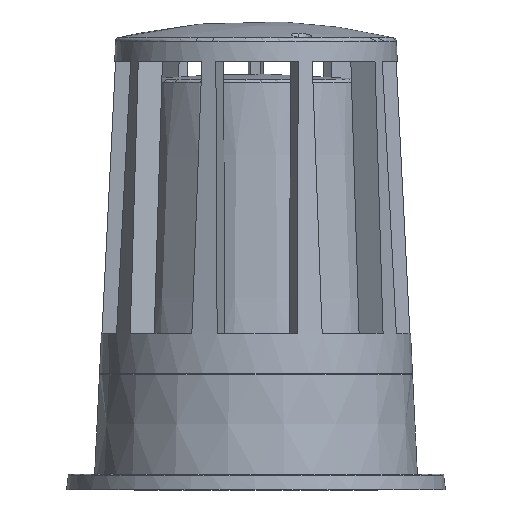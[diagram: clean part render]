
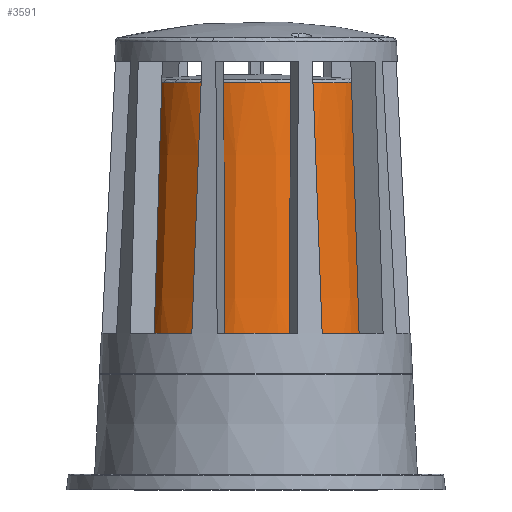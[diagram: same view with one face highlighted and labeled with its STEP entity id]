
A CAD part, front view. The second image highlights one B-rep face of the part: STEP entity #3591.
In plain terms, the highlighted conical face has half-angle 2.813 degrees and reference radius 56.857 mm.
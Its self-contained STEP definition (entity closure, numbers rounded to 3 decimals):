
#86=B_SPLINE_CURVE_WITH_KNOTS('',3,(#5673,#5674,#5675,#5676,#5677,#5678,
#5679,#5680,#5681,#5682),.UNSPECIFIED.,.F.,.F.,(4,1,1,1,1,1,1,4),(0.,0.143,
0.286,0.429,0.571,0.714,
0.857,1.),.UNSPECIFIED.);
#184=CONICAL_SURFACE('',#3874,56.857,0.049);
#264=CIRCLE('',#3875,63.217);
#529=FACE_OUTER_BOUND('',#755,.T.);
#755=EDGE_LOOP('',(#2699,#2700,#2701,#2702));
#1065=LINE('',#5671,#1339);
#1066=LINE('',#5683,#1340);
#1339=VECTOR('',#4582,304.8);
#1340=VECTOR('',#4583,304.8);
#1589=VERTEX_POINT('',#5667);
#1590=VERTEX_POINT('',#5668);
#1591=VERTEX_POINT('',#5670);
#1592=VERTEX_POINT('',#5672);
#1992=EDGE_CURVE('',#1589,#1590,#264,.T.);
#1993=EDGE_CURVE('',#1591,#1589,#1065,.T.);
#1994=EDGE_CURVE('',#1592,#1591,#86,.T.);
#1995=EDGE_CURVE('',#1590,#1592,#1066,.T.);
#2699=ORIENTED_EDGE('',*,*,#1992,.F.);
#2700=ORIENTED_EDGE('',*,*,#1993,.F.);
#2701=ORIENTED_EDGE('',*,*,#1994,.F.);
#2702=ORIENTED_EDGE('',*,*,#1995,.F.);
#3591=ADVANCED_FACE('',(#529),#184,.T.);
#3874=AXIS2_PLACEMENT_3D('',#5666,#4578,#4579);
#3875=AXIS2_PLACEMENT_3D('',#5669,#4580,#4581);
#4578=DIRECTION('center_axis',(0.,0.,
-1.));
#4579=DIRECTION('ref_axis',(0.,-1.,0.));
#4580=DIRECTION('center_axis',(0.,0.,-1.));
#4581=DIRECTION('ref_axis',(-0.809,0.588,0.));
#4582=DIRECTION('',(0.049,0.,-0.999));
#4583=DIRECTION('',(0.049,0.,0.999));
#5666=CARTESIAN_POINT('Origin',(0.,0.,189.769));
#5667=CARTESIAN_POINT('',(63.217,0.,60.314));
#5668=CARTESIAN_POINT('',(-63.217,0.,60.314));
#5669=CARTESIAN_POINT('Origin',(0.,0.,
60.314));
#5670=CARTESIAN_POINT('',(56.15,0.,204.153));
#5671=CARTESIAN_POINT('',(56.15,0.,204.153));
#5672=CARTESIAN_POINT('',(-56.15,0.,204.153));
#5673=CARTESIAN_POINT('Ctrl Pts',(-56.15,0.,
204.153));
#5674=CARTESIAN_POINT('Ctrl Pts',(-56.273,-8.457,204.153));
#5675=CARTESIAN_POINT('Ctrl Pts',(-52.26,-25.167,204.153));
#5676=CARTESIAN_POINT('Ctrl Pts',(-36.22,-45.406,204.153));
#5677=CARTESIAN_POINT('Ctrl Pts',(-12.916,-56.61,204.153));
#5678=CARTESIAN_POINT('Ctrl Pts',(12.916,-56.61,204.153));
#5679=CARTESIAN_POINT('Ctrl Pts',(36.22,-45.406,204.153));
#5680=CARTESIAN_POINT('Ctrl Pts',(52.26,-25.167,204.153));
#5681=CARTESIAN_POINT('Ctrl Pts',(56.273,-8.457,204.153));
#5682=CARTESIAN_POINT('Ctrl Pts',(56.15,0.,
204.153));
#5683=CARTESIAN_POINT('',(-63.217,0.,60.314));
